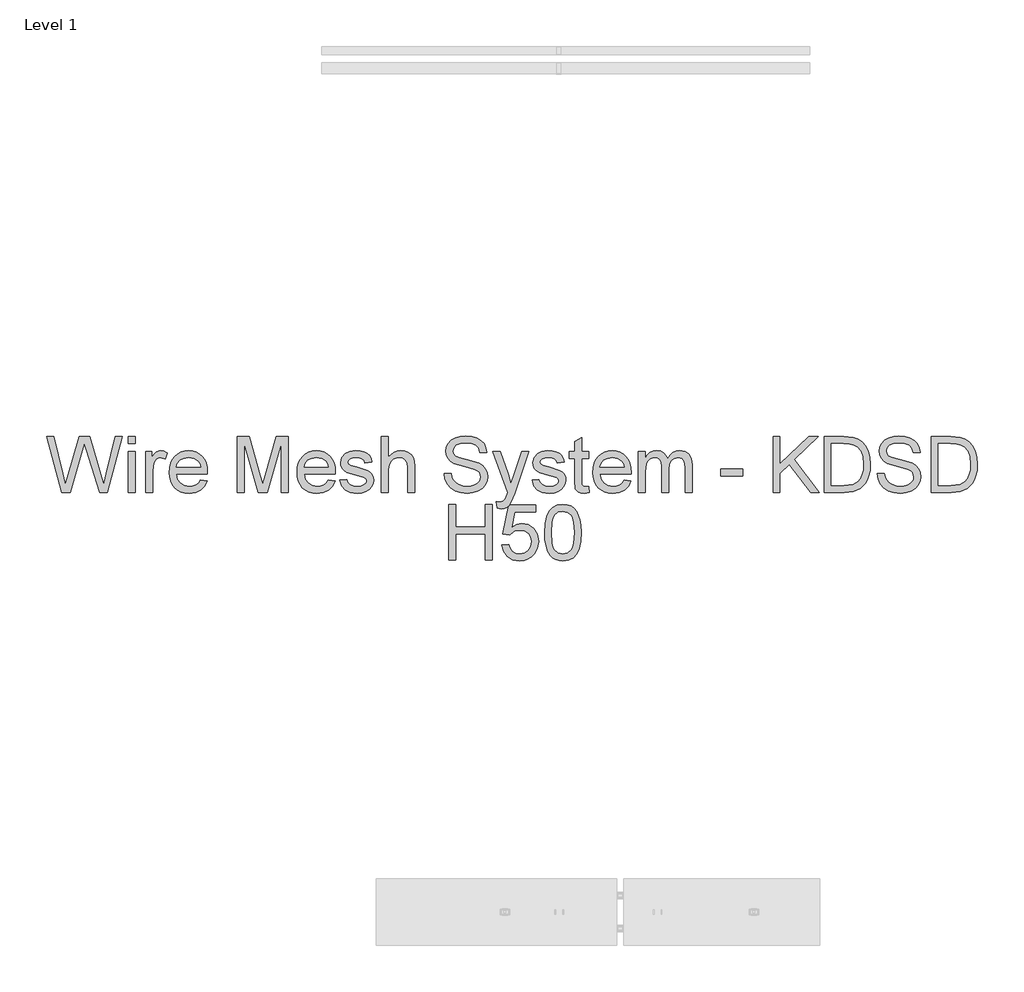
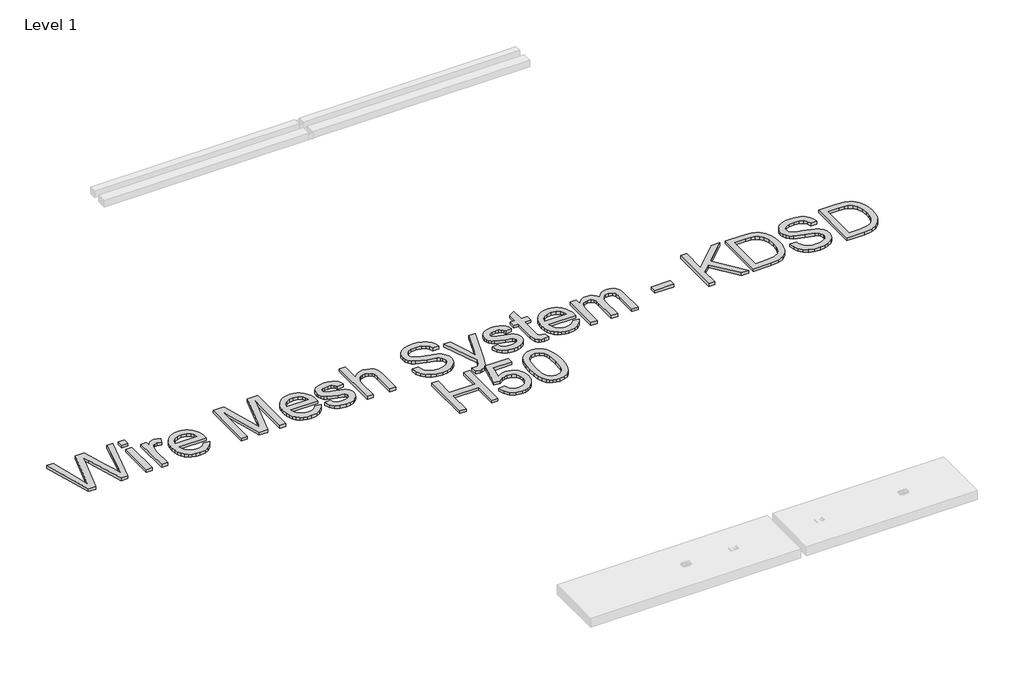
# One storey, part 29 of 32: 1 proxy.
"""IFC4 building model written with IfcOpenShell, lengths in millimetres."""

from ifc_helpers import new_model, si_unit, origin, origin_with_axes, place, context, project, spatial, polyline, outline, extrude, element, save

model = new_model("IFC4")

# Units and contexts
model_context = context("Model", 3, world=origin())
ifc_project = project(units=[si_unit("LENGTHUNIT", "METRE", prefix="MILLI")], contexts=[model_context])

# Site, building, storey
site = spatial("IfcSite", under=ifc_project)
building = spatial("IfcBuilding", under=site)
storey = spatial("IfcBuildingStorey", under=building, Name="Level 1", Elevation=0.0)

# Proxy
placement = place(None, origin())
element("IfcBuildingElementProxy", 1, Name="250mm Arial 3", ObjectType="250mm Arial 3", at=placement, inside=storey, context=model_context, shape_type="SweptSolid", body=[
    extrude(outline(polyline([(3690.6455865, 64603.1379564), (3622.1582217, 64854.2787318), (3654.5318373, 64854.2787318), (3694.2630928, 64689.2223433), (3706.525826, 64638.2706869), (3719.6469505, 64683.3362313), (3769.4336471, 64854.2787318), (3816.0933469, 64854.2787318), (3852.2684097, 64730.3638131), (3867.7654388, 64684.3785637), (3879.185109, 64638.2706869), (3891.0799602, 64687.7508153), (3931.1790977, 64854.2787318), (3963.5527133, 64854.2787318), (3895.0040348, 64603.1379564), (3861.4654596, 64603.1379564), (3801.2554397, 64796.8891405), (3792.8554675, 64823.9284672), (3783.413163, 64791.3709106), (3728.537432, 64603.1379564), (3690.6455865, 64603.1379564)])), origin_with_axes(), (0.0, 0.0, 1.0), 15.0),
    extrude(outline(polyline([(3991.0212356, 64822.8861348), (3991.0212356, 64854.2787318), (4022.4138325, 64854.2787318), (4022.4138325, 64822.8861348), (3991.0212356, 64822.8861348)])), origin_with_axes(), (0.0, 0.0, 1.0), 15.0),
    extrude(outline(polyline([(3991.0212356, 64603.1379564), (3991.0212356, 64787.5694633), (4022.4138325, 64787.5694633), (4022.4138325, 64603.1379564), (3991.0212356, 64603.1379564)])), origin_with_axes(), (0.0, 0.0, 1.0), 15.0),
    extrude(outline(polyline([(4069.5027279, 64603.1379564), (4069.5027279, 64787.5694633), (4096.9712502, 64787.5694633), (4096.9712502, 64760.284882), (4107.1186619, 64776.1038078), (4116.4689959, 64785.423485), (4136.089369, 64791.4935379), (4151.7243538, 64789.0716481), (4167.6045933, 64781.8059787), (4157.1199564, 64753.6630061), (4135.0470367, 64760.100941), (4125.67371, 64758.5527709), (4117.2967304, 64753.9082608), (4105.9843591, 64736.7404343), (4100.8953248, 64700.0748621), (4100.8953248, 64603.1379564), (4069.5027279, 64603.1379564)])), origin_with_axes(), (0.0, 0.0, 1.0), 15.0),
    extrude(outline(polyline([(4316.3515466, 64658.075001), (4347.1310069, 64654.1509264), (4336.0408976, 64630.9590323), (4318.3442408, 64613.6225933), (4294.4395753, 64602.8160597), (4264.72544, 64599.2138818), (4245.2468548, 64600.7678), (4227.8912552, 64605.4295547), (4212.6586414, 64613.1991458), (4199.5490132, 64624.0765733), (4189.0068947, 64637.759101), (4181.4768102, 64653.9439928), (4176.9587594, 64672.6312485), (4175.4527425, 64693.8208682), (4176.9740878, 64715.7290074), (4181.5381238, 64735.0389801), (4189.1448505, 64751.7507861), (4199.7942678, 64765.8644256), (4212.8694071, 64777.0771622), (4227.7532995, 64785.0862598), (4244.445945, 64789.8917184), (4262.9473437, 64791.4935379), (4280.8528502, 64789.8955505), (4297.0454061, 64785.1015883), (4311.5250115, 64777.1116512), (4324.2916664, 64765.9257393), (4334.7130735, 64751.8427566), (4342.1569358, 64735.1616074), (4346.6232531, 64715.8822916), (4348.1120256, 64694.0048092), (4347.9280846, 64685.5435233), (4206.8453394, 64685.5435233), (4212.279263, 64662.0450609), (4224.902214, 64644.7699355), (4243.120037, 64634.1473429), (4265.3385766, 64630.6064787), (4282.0465506, 64632.2466193), (4296.1180369, 64637.1670409), (4307.5530356, 64645.6743121), (4316.3515466, 64658.075001)]), holes=[polyline([(4206.8453394, 64716.9361202), (4316.7194286, 64716.9361202), (4312.4734573, 64733.5214669), (4304.1501271, 64745.3856612), (4285.8479979, 64756.4221211), (4262.8247163, 64760.100941), (4241.6638374, 64757.1655493), (4224.16645, 64748.359374), (4212.0033515, 64734.632777), (4206.8453394, 64716.9361202)])]), origin_with_axes(), (0.0, 0.0, 1.0), 15.0),
    extrude(outline(polyline([(4481.5305625, 64603.1379564), (4481.5305625, 64854.2787318), (4535.5479021, 64854.2787318), (4586.9287541, 64677.2661784), (4597.2907636, 64640.2940379), (4608.5111645, 64680.3318617), (4659.0336251, 64854.2787318), (4713.0509648, 64854.2787318), (4713.0509648, 64603.1379564), (4681.6583678, 64603.1379564), (4681.6583678, 64822.8861348), (4618.5666057, 64603.1379564), (4576.0149216, 64603.1379564), (4512.9231594, 64822.8861348), (4512.9231594, 64603.1379564), (4481.5305625, 64603.1379564)])), origin_with_axes(), (0.0, 0.0, 1.0), 15.0),
    extrude(outline(polyline([(4893.1905151, 64658.075001), (4923.9699753, 64654.1509264), (4912.879866, 64630.9590323), (4895.1832092, 64613.6225933), (4871.2785437, 64602.8160597), (4841.5644084, 64599.2138818), (4822.0858232, 64600.7678), (4804.7302237, 64605.4295547), (4789.4976098, 64613.1991458), (4776.3879816, 64624.0765733), (4765.8458632, 64637.759101), (4758.3157786, 64653.9439928), (4753.7977278, 64672.6312485), (4752.2917109, 64693.8208682), (4753.8130563, 64715.7290074), (4758.3770923, 64735.0389801), (4765.9838189, 64751.7507861), (4776.6332363, 64765.8644256), (4789.7083755, 64777.0771622), (4804.5922679, 64785.0862598), (4821.2849134, 64789.8917184), (4839.7863121, 64791.4935379), (4857.6918186, 64789.8955505), (4873.8843745, 64785.1015883), (4888.3639799, 64777.1116512), (4901.1306348, 64765.9257393), (4911.5520419, 64751.8427566), (4918.9959042, 64735.1616074), (4923.4622215, 64715.8822916), (4924.950994, 64694.0048092), (4924.767053, 64685.5435233), (4783.6843078, 64685.5435233), (4789.1182315, 64662.0450609), (4801.7411824, 64644.7699355), (4819.9590054, 64634.1473429), (4842.1775451, 64630.6064787), (4858.885519, 64632.2466193), (4872.9570053, 64637.1670409), (4884.392004, 64645.6743121), (4893.1905151, 64658.075001)]), holes=[polyline([(4783.6843078, 64716.9361202), (4893.5583971, 64716.9361202), (4889.3124257, 64733.5214669), (4880.9890956, 64745.3856612), (4862.6869663, 64756.4221211), (4839.6636848, 64760.100941), (4818.5028058, 64757.1655493), (4801.0054184, 64748.359374), (4788.84232, 64734.632777), (4783.6843078, 64716.9361202)])]), origin_with_axes(), (0.0, 0.0, 1.0), 15.0),
    extrude(outline(polyline([(4944.5713671, 64658.075001), (4975.963964, 64661.9990756), (4980.9150425, 64648.5713828), (4990.4953028, 64638.6998826), (5004.7660585, 64632.6298297), (5023.7886234, 64630.6064787), (5042.5812619, 64632.4612171), (5055.7943569, 64638.0254323), (5063.6118493, 64646.0881793), (5066.2176801, 64655.4385134), (5063.5965209, 64663.4399468), (5055.7330433, 64669.5406565), (5023.4207414, 64678.4924517), (4976.147905, 64693.851525), (4964.1840759, 64701.5693827), (4955.5158564, 64711.7857723), (4950.2505454, 64723.8492361), (4948.4954417, 64737.1083163), (4954.1362989, 64760.4994798), (4969.5260291, 64778.3724134), (4989.4836273, 64787.6614338), (5016.4922971, 64791.4935379), (5036.9250763, 64789.9530321), (5054.690711, 64785.3315145), (5068.9767951, 64778.0811735), (5078.9709226, 64768.6541974), (5085.5927986, 64756.3531432), (5089.7621278, 64740.4805679), (5058.3695309, 64736.5564933), (5054.4071353, 64746.4356577), (5046.5666502, 64753.8776039), (5034.7714338, 64758.5451067), (5018.9448438, 64760.100941), (5000.918626, 64758.6140846), (4988.9011475, 64754.1535154), (4982.1413158, 64747.7155805), (4979.8880386, 64740.2966269), (4983.6281722, 64731.1608907), (4995.3390824, 64724.2324465), (5022.378409, 64717.5492569), (5068.4556289, 64702.7726634), (5080.6263916, 64695.7062634), (5089.8540983, 64686.0340326), (5095.6712324, 64673.7253142), (5097.6102771, 64658.7494513), (5095.3340072, 64643.2677507), (5088.5051977, 64628.7057551), (5077.3844315, 64616.2054314), (5062.2322919, 64606.9087468), (5043.9301626, 64601.137598), (5023.3594277, 64599.2138818), (4991.7062477, 64602.9233586), (4968.6063241, 64614.0517889), (4953.1859371, 64632.4765455), (4944.5713671, 64658.075001)])), origin_with_axes(), (0.0, 0.0, 1.0), 15.0),
    extrude(outline(polyline([(5132.9269486, 64603.1379564), (5132.9269486, 64854.2787318), (5164.3195455, 64854.2787318), (5164.3195455, 64761.940351), (5175.8503468, 64774.8698703), (5188.7990266, 64784.1052412), (5203.1655849, 64789.6464637), (5218.9500218, 64791.4935379), (5237.911273, 64789.4778512), (5254.2053797, 64783.4307909), (5267.0352643, 64773.8275379), (5275.6038491, 64761.1432733), (5280.4323002, 64743.7148638), (5282.041784, 64719.8791762), (5282.041784, 64603.1379564), (5250.6491871, 64603.1379564), (5250.6491871, 64716.6295519), (5248.1506552, 64736.2805818), (5240.6550595, 64749.7389315), (5228.5762673, 64757.5104386), (5212.3281459, 64760.100941), (5199.0614014, 64758.3535015), (5186.6070631, 64753.1111831), (5176.2910388, 64744.8798235), (5169.4392366, 64734.1652603), (5165.5994683, 64719.9251614), (5164.3195455, 64701.1171944), (5164.3195455, 64603.1379564), (5132.9269486, 64603.1379564)])), origin_with_axes(), (0.0, 0.0, 1.0), 15.0),
    extrude(outline(polyline([(5415.4603209, 64689.4675979), (5446.8529178, 64689.4675979), (5450.4550957, 64672.0468526), (5456.9696727, 64658.0443442), (5467.1324128, 64646.9312422), (5481.67908, 64638.1787164), (5499.4600431, 64632.4995381), (5519.3256709, 64630.6064787), (5536.8153941, 64632.0396856), (5552.1284821, 64636.3393065), (5564.5368352, 64643.1451234), (5573.3123537, 64652.0969186), (5578.5316795, 64662.3746218), (5580.2714547, 64673.1581628), (5575.0597931, 64692.7478791), (5567.1196734, 64700.4963936), (5553.7226374, 64707.0033064), (5508.0132995, 64718.990128), (5458.8090827, 64734.4718287), (5443.1817621, 64745.0331076), (5432.1069812, 64757.8323354), (5425.5080979, 64772.5936004), (5423.3084701, 64789.0409913), (5426.029264, 64807.4274268), (5434.1916458, 64824.5722607), (5447.5810176, 64839.1035995), (5465.9827816, 64849.64955), (5488.0710297, 64856.0644923), (5512.519854, 64858.2028064), (5539.0073576, 64855.9648576), (5562.1839233, 64849.2510112), (5581.2218166, 64838.1992229), (5595.2933029, 64822.9474485), (5604.1991128, 64804.4460498), (5607.739977, 64783.6453887), (5576.3473801, 64783.6453887), (5570.5838955, 64802.3767136), (5558.566417, 64815.8963769), (5539.7891068, 64824.0817513), (5513.7461273, 64826.8102095), (5487.090011, 64824.1124082), (5468.8032102, 64816.0190043), (5458.2266028, 64804.1088247), (5454.701067, 64789.9606963), (5457.1995989, 64777.8972325), (5464.6951946, 64768.1943449), (5482.414844, 64759.5184612), (5515.9534192, 64750.6586365), (5571.5036005, 64734.9010243), (5589.3995267, 64723.5120109), (5601.8845219, 64709.455853), (5609.2191692, 64692.8858348), (5611.6640517, 64673.9552405), (5608.8512872, 64654.6031147), (5600.412994, 64636.4006201), (5586.6940612, 64620.7349785), (5568.0393784, 64608.9934115), (5545.6062409, 64601.6587642), (5520.5519442, 64599.2138818), (5489.7954765, 64601.8503694), (5464.4805968, 64609.7598323), (5444.3160649, 64622.9729273), (5429.010641, 64641.5203112), (5419.1851261, 64664.1143971), (5415.4603209, 64689.4675979)])), origin_with_axes(), (0.0, 0.0, 1.0), 15.0),
    extrude(outline(polyline([(5654.8288724, 64532.5046133), (5650.9047978, 64562.7322506), (5666.8463509, 64559.9731356), (5681.7455717, 64563.4373577), (5690.8813079, 64573.0942601), (5699.4652212, 64596.2095122), (5701.9177678, 64603.8124067), (5635.2084993, 64787.5694633), (5668.3178789, 64787.5694633), (5703.6958641, 64685.1756413), (5716.019911, 64644.2181125), (5728.3439578, 64680.3931754), (5764.7029616, 64787.5694633), (5797.5670866, 64787.5694633), (5733.3716784, 64598.7233725), (5716.6943613, 64557.7658437), (5708.1564333, 64544.6907044), (5698.4842025, 64535.6316103), (5687.2484732, 64530.3433066), (5674.0200498, 64528.5805387), (5654.8288724, 64532.5046133)])), origin_with_axes(), (0.0, 0.0, 1.0), 15.0),
    extrude(outline(polyline([(5811.791857, 64658.075001), (5843.184454, 64661.9990756), (5848.1355325, 64648.5713828), (5857.7157928, 64638.6998826), (5871.9865485, 64632.6298297), (5891.0091133, 64630.6064787), (5909.8017519, 64632.4612171), (5923.0148469, 64638.0254323), (5930.8323393, 64646.0881793), (5933.4381701, 64655.4385134), (5930.8170109, 64663.4399468), (5922.9535332, 64669.5406565), (5890.6412313, 64678.4924517), (5843.368395, 64693.851525), (5831.4045659, 64701.5693827), (5822.7363464, 64711.7857723), (5817.4710353, 64723.8492361), (5815.7159316, 64737.1083163), (5821.3567889, 64760.4994798), (5836.746519, 64778.3724134), (5856.7041173, 64787.6614338), (5883.7127871, 64791.4935379), (5904.1455662, 64789.9530321), (5921.9112009, 64785.3315145), (5936.1972851, 64778.0811735), (5946.1914126, 64768.6541974), (5952.8132885, 64756.3531432), (5956.9826178, 64740.4805679), (5925.5900209, 64736.5564933), (5921.6276252, 64746.4356577), (5913.7871402, 64753.8776039), (5901.9919237, 64758.5451067), (5886.1653337, 64760.100941), (5868.139116, 64758.6140846), (5856.1216374, 64754.1535154), (5849.3618058, 64747.7155805), (5847.1085286, 64740.2966269), (5850.8486622, 64731.1608907), (5862.5595724, 64724.2324465), (5889.598899, 64717.5492569), (5935.6761189, 64702.7726634), (5947.8468816, 64695.7062634), (5957.0745883, 64686.0340326), (5962.8917223, 64673.7253142), (5964.830767, 64658.7494513), (5962.5544972, 64643.2677507), (5955.7256876, 64628.7057551), (5944.6049215, 64616.2054314), (5929.4527818, 64606.9087468), (5911.1506526, 64601.137598), (5890.5799177, 64599.2138818), (5858.9267377, 64602.9233586), (5835.826814, 64614.0517889), (5820.4064271, 64632.4765455), (5811.791857, 64658.075001)])), origin_with_axes(), (0.0, 0.0, 1.0), 15.0),
    extrude(outline(polyline([(6066.856707, 64629.3188917), (6070.7807816, 64602.2182514), (6047.2976476, 64599.2138818), (6032.2298142, 64600.5167972), (6020.994085, 64604.4255434), (6007.8729605, 64618.0984909), (6004.0715132, 64653.7217307), (6004.0715132, 64756.1768664), (5980.5270655, 64756.1768664), (5980.5270655, 64787.5694633), (6004.0715132, 64787.5694633), (6004.0715132, 64832.3897531), (6035.4641101, 64850.8451665), (6035.4641101, 64787.5694633), (6066.856707, 64787.5694633), (6066.856707, 64756.1768664), (6035.4641101, 64756.1768664), (6035.4641101, 64654.6414357), (6037.1195791, 64638.4546279), (6042.4845248, 64632.7218002), (6053.1837595, 64630.6064787), (6066.856707, 64629.3188917)])), origin_with_axes(), (0.0, 0.0, 1.0), 15.0),
    extrude(outline(polyline([(6227.3758842, 64658.075001), (6258.1553445, 64654.1509264), (6247.0652352, 64630.9590323), (6229.3685784, 64613.6225933), (6205.4639129, 64602.8160597), (6175.7497776, 64599.2138818), (6156.2711924, 64600.7678), (6138.9155928, 64605.4295547), (6123.682979, 64613.1991458), (6110.5733508, 64624.0765733), (6100.0312324, 64637.759101), (6092.5011478, 64653.9439928), (6087.983097, 64672.6312485), (6086.4770801, 64693.8208682), (6087.9984254, 64715.7290074), (6092.5624614, 64735.0389801), (6100.1691881, 64751.7507861), (6110.8186054, 64765.8644256), (6123.8937447, 64777.0771622), (6138.7776371, 64785.0862598), (6155.4702826, 64789.8917184), (6173.9716813, 64791.4935379), (6191.8771878, 64789.8955505), (6208.0697437, 64785.1015883), (6222.5493491, 64777.1116512), (6235.316004, 64765.9257393), (6245.7374111, 64751.8427566), (6253.1812734, 64735.1616074), (6257.6475907, 64715.8822916), (6259.1363632, 64694.0048092), (6258.9524222, 64685.5435233), (6117.869677, 64685.5435233), (6123.3036007, 64662.0450609), (6135.9265516, 64644.7699355), (6154.1443746, 64634.1473429), (6176.3629143, 64630.6064787), (6193.0708882, 64632.2466193), (6207.1423745, 64637.1670409), (6218.5773732, 64645.6743121), (6227.3758842, 64658.075001)]), holes=[polyline([(6117.869677, 64716.9361202), (6227.7437662, 64716.9361202), (6223.4977949, 64733.5214669), (6215.1744647, 64745.3856612), (6196.8723355, 64756.4221211), (6173.849054, 64760.100941), (6152.688175, 64757.1655493), (6135.1907876, 64748.359374), (6123.0276892, 64734.632777), (6117.869677, 64716.9361202)])]), origin_with_axes(), (0.0, 0.0, 1.0), 15.0),
    extrude(outline(polyline([(6290.5289601, 64603.1379564), (6290.5289601, 64787.5694633), (6321.921557, 64787.5694633), (6321.921557, 64757.2191987), (6331.3638616, 64771.1603935), (6343.5039674, 64782.0818902), (6357.9280073, 64789.140626), (6374.222114, 64791.4935379), (6391.6811803, 64789.0946407), (6405.6760246, 64781.8979492), (6416.1300046, 64770.3786442), (6422.9664784, 64755.0119067), (6434.4091412, 64770.9726204), (6447.4612879, 64782.3731301), (6462.1229182, 64789.213436), (6478.3940323, 64791.4935379), (6501.9921294, 64787.6997549), (6519.4435316, 64776.3184056), (6530.2270726, 64757.0429219), (6533.8215862, 64729.5667354), (6533.8215862, 64603.1379564), (6502.4289893, 64603.1379564), (6502.4289893, 64716.0777289), (6499.5165902, 64742.2893211), (6488.9706397, 64755.1958477), (6471.0363924, 64760.100941), (6454.0295143, 64756.9586156), (6440.1649616, 64747.5316395), (6430.9449191, 64731.1762191), (6427.8715716, 64707.248561), (6427.8715716, 64603.1379564), (6396.4789747, 64603.1379564), (6396.4789747, 64719.5726079), (6394.6625573, 64737.3229141), (6389.2133053, 64749.9841861), (6379.6253808, 64757.5717523), (6365.3929461, 64760.100941), (6353.2988255, 64758.4148152), (6342.1550667, 64753.3564378), (6332.9580169, 64745.048436), (6326.7040229, 64733.6134374), (6321.921557, 64696.1507875), (6321.921557, 64603.1379564), (6290.5289601, 64603.1379564)])), origin_with_axes(), (0.0, 0.0, 1.0), 15.0),
    extrude(outline(polyline([(6663.3160485, 64677.6953741), (6663.3160485, 64709.087971), (6761.4179139, 64709.087971), (6761.4179139, 64677.6953741), (6663.3160485, 64677.6953741)])), origin_with_axes(), (0.0, 0.0, 1.0), 15.0),
    extrude(outline(polyline([(6898.7605254, 64603.1379564), (6898.7605254, 64854.2787318), (6930.1531224, 64854.2787318), (6930.1531224, 64731.3448317), (7058.9118207, 64854.2787318), (7102.8124054, 64854.2787318), (6994.7164125, 64751.0265185), (7106.7364801, 64603.1379564), (7068.3541252, 64603.1379564), (6972.4595518, 64729.8119901), (6930.1531224, 64689.4675979), (6930.1531224, 64603.1379564), (6898.7605254, 64603.1379564)])), origin_with_axes(), (0.0, 0.0, 1.0), 15.0),
    extrude(outline(polyline([(7130.2809277, 64603.1379564), (7130.2809277, 64854.2787318), (7216.9171376, 64854.2787318), (7261.7374274, 64850.6612255), (7281.7563393, 64843.686796), (7298.6482542, 64832.6963214), (7316.0153501, 64813.5664576), (7328.3853821, 64789.7767553), (7335.7890073, 64761.7870668), (7338.2568824, 64730.0572447), (7336.586085, 64703.1022244), (7331.5736928, 64679.3814999), (7323.9401414, 64659.1863112), (7314.4058663, 64642.8078982), (7291.4745553, 64620.0298713), (7261.4615159, 64607.429913), (7221.0864669, 64603.1379564), (7130.2809277, 64603.1379564)]), holes=[polyline([(7161.6735247, 64634.5305533), (7217.2237059, 64634.5305533), (7257.6294117, 64639.0677646), (7280.9286048, 64651.8823208), (7291.8347731, 64665.470962), (7300.0278117, 64683.0603198), (7305.155167, 64704.7270365), (7306.8642854, 64730.5477541), (7303.5150264, 64764.7607796), (7293.4672494, 64790.0220099), (7278.6216781, 64807.3737774), (7260.879036, 64817.8584142), (7242.8221614, 64821.6292047), (7216.3653146, 64822.8861348), (7161.6735247, 64822.8861348), (7161.6735247, 64634.5305533)])]), origin_with_axes(), (0.0, 0.0, 1.0), 15.0),
    extrude(outline(polyline([(7369.6494793, 64689.4675979), (7401.0420762, 64689.4675979), (7404.6442541, 64672.0468526), (7411.1588311, 64658.0443442), (7421.3215712, 64646.9312422), (7435.8682384, 64638.1787164), (7453.6492015, 64632.4995381), (7473.5148292, 64630.6064787), (7491.0045524, 64632.0396856), (7506.3176405, 64636.3393065), (7518.7259936, 64643.1451234), (7527.501512, 64652.0969186), (7532.7208378, 64662.3746218), (7534.4606131, 64673.1581628), (7529.2489515, 64692.7478791), (7521.3088318, 64700.4963936), (7507.9117958, 64707.0033064), (7462.2024579, 64718.990128), (7412.998241, 64734.4718287), (7397.3709205, 64745.0331076), (7386.2961396, 64757.8323354), (7379.6972563, 64772.5936004), (7377.4976285, 64789.0409913), (7380.2184224, 64807.4274268), (7388.3808042, 64824.5722607), (7401.770176, 64839.1035995), (7420.1719399, 64849.64955), (7442.2601881, 64856.0644923), (7466.7090123, 64858.2028064), (7493.196516, 64855.9648576), (7516.3730817, 64849.2510112), (7535.4109749, 64838.1992229), (7549.4824612, 64822.9474485), (7558.3882712, 64804.4460498), (7561.9291354, 64783.6453887), (7530.5365385, 64783.6453887), (7524.7730539, 64802.3767136), (7512.7555754, 64815.8963769), (7493.9782652, 64824.0817513), (7467.9352857, 64826.8102095), (7441.2791694, 64824.1124082), (7422.9923686, 64816.0190043), (7412.4157612, 64804.1088247), (7408.8902254, 64789.9606963), (7411.3887573, 64777.8972325), (7418.884353, 64768.1943449), (7436.6040024, 64759.5184612), (7470.1425776, 64750.6586365), (7525.6927589, 64734.9010243), (7543.5886851, 64723.5120109), (7556.0736803, 64709.455853), (7563.4083276, 64692.8858348), (7565.85321, 64673.9552405), (7563.0404456, 64654.6031147), (7554.6021523, 64636.4006201), (7540.8832196, 64620.7349785), (7522.2285368, 64608.9934115), (7499.7953993, 64601.6587642), (7474.7411026, 64599.2138818), (7443.9846349, 64601.8503694), (7418.6697551, 64609.7598323), (7398.5052233, 64622.9729273), (7383.1997994, 64641.5203112), (7373.3742845, 64664.1143971), (7369.6494793, 64689.4675979)])), origin_with_axes(), (0.0, 0.0, 1.0), 15.0),
    extrude(outline(polyline([(7612.9421054, 64603.1379564), (7612.9421054, 64854.2787318), (7699.5783153, 64854.2787318), (7744.398605, 64850.6612255), (7764.4175169, 64843.686796), (7781.3094319, 64832.6963214), (7798.6765277, 64813.5664576), (7811.0465598, 64789.7767553), (7818.450185, 64761.7870668), (7820.91806, 64730.0572447), (7819.2472626, 64703.1022244), (7814.2348704, 64679.3814999), (7806.601319, 64659.1863112), (7797.067044, 64642.8078982), (7774.135733, 64620.0298713), (7744.1226935, 64607.429913), (7703.7476446, 64603.1379564), (7612.9421054, 64603.1379564)]), holes=[polyline([(7644.3347023, 64634.5305533), (7699.8848836, 64634.5305533), (7740.2905894, 64639.0677646), (7763.5897824, 64651.8823208), (7774.4959508, 64665.470962), (7782.6889894, 64683.0603198), (7787.8163447, 64704.7270365), (7789.5254631, 64730.5477541), (7786.1762041, 64764.7607796), (7776.1284271, 64790.0220099), (7761.2828558, 64807.3737774), (7743.5402137, 64817.8584142), (7725.4833391, 64821.6292047), (7699.0264923, 64822.8861348), (7644.3347023, 64822.8861348), (7644.3347023, 64634.5305533)])]), origin_with_axes(), (0.0, 0.0, 1.0), 15.0),
    extrude(outline(polyline([(5437.0427313, 64298.2009118), (5437.0427313, 64549.3416872), (5468.4353282, 64549.3416872), (5468.4353282, 64447.3157472), (5601.8538651, 64447.3157472), (5601.8538651, 64549.3416872), (5633.246462, 64549.3416872), (5633.246462, 64298.2009118), (5601.8538651, 64298.2009118), (5601.8538651, 64415.9231502), (5468.4353282, 64415.9231502), (5468.4353282, 64298.2009118), (5437.0427313, 64298.2009118)])), origin_with_axes(), (0.0, 0.0, 1.0), 15.0),
    extrude(outline(polyline([(5676.4112828, 64364.9101802), (5707.8038797, 64368.8342549), (5713.5673643, 64349.9879668), (5723.6228055, 64336.4912961), (5737.9242181, 64328.3748996), (5756.4256168, 64325.6694341), (5778.9277321, 64329.4325603), (5795.7889902, 64340.7219391), (5806.3196124, 64358.2346549), (5809.8298197, 64380.6677924), (5806.5418744, 64401.7903503), (5796.6780384, 64417.9465012), (5780.1616697, 64428.2012118), (5756.9161261, 64431.6194487), (5741.6873443, 64430.2552196), (5729.3556333, 64426.1625324), (5711.7279543, 64411.9990756), (5680.3353574, 64415.9231502), (5707.8038797, 64545.4176125), (5829.4501928, 64545.4176125), (5829.4501928, 64514.0250156), (5733.1877374, 64514.0250156), (5719.7600446, 64444.8632005), (5742.1855179, 64458.4748343), (5765.6839803, 64463.0120456), (5795.0149052, 64457.3865168), (5819.3640948, 64440.5099303), (5835.7578362, 64414.7888474), (5841.2224166, 64382.6298297), (5836.301995, 64351.2372328), (5821.5407299, 64324.3818471), (5808.4962475, 64311.2109053), (5793.2751299, 64301.8030897), (5775.8773773, 64296.1584003), (5756.3029894, 64294.2768372), (5725.4698797, 64299.1129526), (5700.9060923, 64313.6212987), (5684.0678268, 64336.1157499), (5676.4112828, 64364.9101802)])), origin_with_axes(), (0.0, 0.0, 1.0), 15.0),
    extrude(outline(polyline([(5868.690939, 64421.7479485), (5870.9978656, 64461.9467207), (5877.9186457, 64494.0061037), (5889.3843012, 64518.4166069), (5905.3258543, 64535.6687397), (5925.8582682, 64545.9234503), (5951.0965059, 64549.3416872), (5970.4409675, 64547.3183362), (5987.7620781, 64541.2482833), (6002.2474316, 64531.3691189), (6013.0846221, 64517.9184334), (6027.7999019, 64480.7623519), (6032.0765301, 64455.0489333), (6033.5020728, 64421.7479485), (6031.2181387, 64381.7791026), (6024.3663366, 64349.7963616), (6012.9696589, 64325.3628658), (5997.0510984, 64308.0417552), (5976.4726993, 64297.7180667), (5951.0965059, 64294.2768372), (5933.8060521, 64295.7713578), (5918.4776356, 64300.2549196), (5905.1112565, 64307.7275226), (5893.7069146, 64318.1891669), (5882.7624253, 64337.1006007), (5874.9449329, 64360.6642089), (5870.2544374, 64388.8799915), (5868.690939, 64421.7479485)]), holes=[polyline([(5900.0835359, 64421.8092622), (5903.7623558, 64372.4287685), (5908.3608808, 64355.5387696), (5914.7988157, 64343.848936), (5931.2308781, 64330.2143096), (5951.0965059, 64325.6694341), (5970.9621336, 64330.229638), (5987.3941961, 64343.9102497), (5993.832131, 64355.6192438), (5998.4306559, 64372.5054106), (6002.1094759, 64421.8092622), (5998.5532832, 64470.0784456), (5994.1080425, 64486.912879), (5987.8847054, 64498.8805402), (5971.4832998, 64513.1819527), (5950.7286239, 64517.9490902), (5931.077594, 64513.7491041), (5915.289325, 64501.1491458), (5908.6367923, 64488.1199918), (5903.8849832, 64470.5536265), (5900.0835359, 64421.8092622)])]), origin_with_axes(), (0.0, 0.0, 1.0), 15.0),
])

save(model, "model.ifc")
